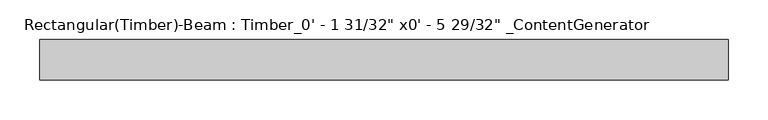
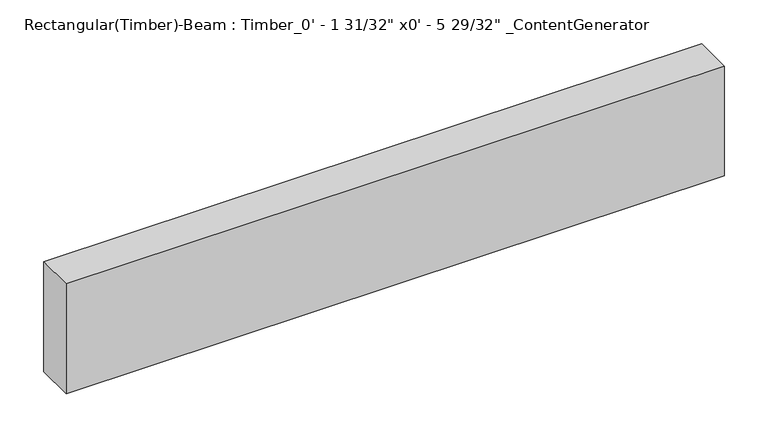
"""IFC4 building model written with IfcOpenShell, lengths in millimetres: beam geometry."""

from ifc_helpers import new_model, si_unit, frame, origin, place, context, project, spatial, polyline, outline, extrude, source, transform, mapped, element, save


def beam_1bbe21a3(model_context):
    return source(origin(), model_context, "Body", "SweptSolid", [
        extrude(outline(polyline([(431.81, 25.4), (431.81, -25.4), (-431.81, -25.4), (-431.81, 25.4), (431.81, 25.4)])), frame((0.0, 0.0, -76.2), z_axis=(0.0, 0.0, 1.0), x_axis=(1.0, 0.0, 0.0)), (0.0, 0.0, 1.0), 152.4),
    ])


if __name__ == "__main__":
    model = new_model("IFC4")
    model_context = context("Model", 3, world=origin())
    ifc_project = project(units=[si_unit("LENGTHUNIT", "METRE", prefix="MILLI")], contexts=[model_context])
    site = spatial("IfcSite", under=ifc_project)
    building = spatial("IfcBuilding", under=site)
    placement = place(None, origin())
    beam_shape = beam_1bbe21a3(model_context)
    element("IfcBeam", 1, ObjectType="Rectangular(Timber)-Beam : Timber_0' - 1 31/32\" x0' - 5 29/32\" _ContentGenerator", at=placement, inside=building, context=model_context, shape_type="MappedRepresentation", body=[
        mapped(beam_shape, transform((0.0, 0.0, 0.0), x_axis=(1.0, 0.0, 0.0), y_axis=(0.0, 1.0, 0.0), z_axis=(0.0, 0.0, 1.0))),
    ])
    save(model, "model.ifc")
